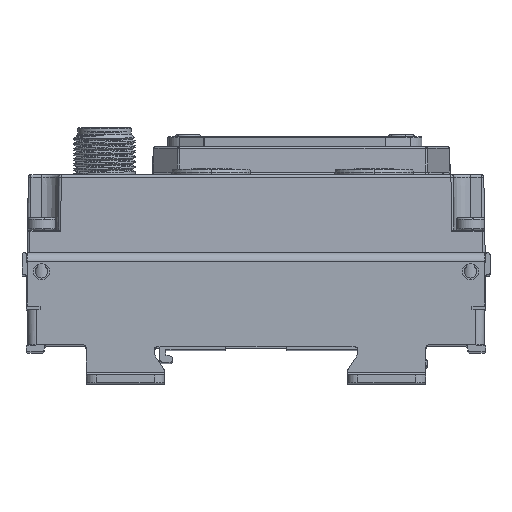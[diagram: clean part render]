
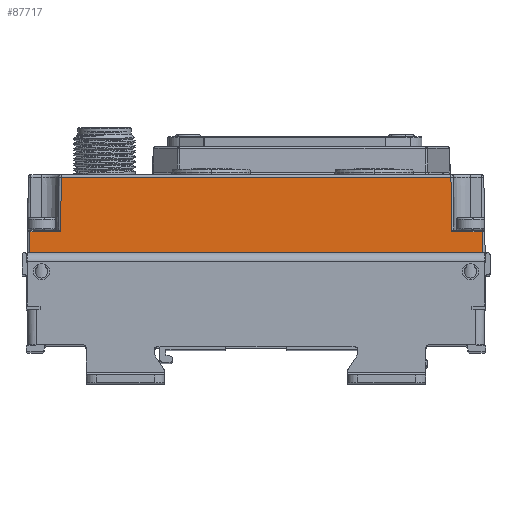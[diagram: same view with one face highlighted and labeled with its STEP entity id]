
A CAD part, top view. The second image highlights one B-rep face of the part: STEP entity #87717.
In plain terms, the highlighted planar face has unit normal (0, 0.018, 1).
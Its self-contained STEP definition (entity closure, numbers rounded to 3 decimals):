
#2068 = VERTEX_POINT ( 'NONE', #58971 ) ;
#2220 = CARTESIAN_POINT ( 'NONE',  ( 46.569, 29.705, 55.145 ) ) ;
#4025 = ORIENTED_EDGE ( 'NONE', *, *, #93430, .F. ) ;
#5047 = VERTEX_POINT ( 'NONE', #129058 ) ;
#5664 = VECTOR ( 'NONE', #32469, 1000. ) ;
#8763 = DIRECTION ( 'NONE',  ( 0.017, 1., -0.017 ) ) ;
#10930 = DIRECTION ( 'NONE',  ( 0., -0.017, -1. ) ) ;
#14651 = CARTESIAN_POINT ( 'NONE',  ( 38.326, 40.409, 54.958 ) ) ;
#14798 = EDGE_CURVE ( 'NONE', #46789, #96457, #136693, .T. ) ;
#15865 = EDGE_CURVE ( 'NONE', #154431, #51217, #16704, .T. ) ;
#16436 = EDGE_CURVE ( 'NONE', #39145, #2068, #132225, .T. ) ;
#16704 = LINE ( 'NONE', #138647, #42500 ) ;
#17189 = CARTESIAN_POINT ( 'NONE',  ( 46.569, 29.705, 55.145 ) ) ;
#19454 = CARTESIAN_POINT ( 'NONE',  ( 43.44, 23.7, 55.25 ) ) ;
#21424 = DIRECTION ( 'NONE',  ( 0.017, -1., 0.017 ) ) ;
#21642 = CARTESIAN_POINT ( 'NONE',  ( 40.9, 23.7, 55.25 ) ) ;
#23215 = ORIENTED_EDGE ( 'NONE', *, *, #43086, .F. ) ;
#25111 = VECTOR ( 'NONE', #32336, 1000. ) ;
#25290 = CARTESIAN_POINT ( 'NONE',  ( 46.569, 12.7, 55.442 ) ) ;
#25950 = CARTESIAN_POINT ( 'NONE',  ( -43.44, 23.7, 55.25 ) ) ;
#29045 = VECTOR ( 'NONE', #33830, 1000. ) ;
#32336 = DIRECTION ( 'NONE',  ( -1., 0., 0. ) ) ;
#32469 = DIRECTION ( 'NONE',  ( -1., 0., 0. ) ) ;
#33830 = DIRECTION ( 'NONE',  ( -1., 0., 0. ) ) ;
#39145 = VERTEX_POINT ( 'NONE', #25950 ) ;
#40425 = VECTOR ( 'NONE', #127438, 1000. ) ;
#40945 = ORIENTED_EDGE ( 'NONE', *, *, #158249, .F. ) ;
#42500 = VECTOR ( 'NONE', #56530, 1000. ) ;
#43086 = EDGE_CURVE ( 'NONE', #81253, #44613, #174907, .T. ) ;
#44613 = VERTEX_POINT ( 'NONE', #19454 ) ;
#46789 = VERTEX_POINT ( 'NONE', #160755 ) ;
#47830 = EDGE_CURVE ( 'NONE', #2068, #147443, #126611, .T. ) ;
#48090 = LINE ( 'NONE', #154686, #56665 ) ;
#49213 = EDGE_CURVE ( 'NONE', #140018, #5047, #121962, .T. ) ;
#51217 = VERTEX_POINT ( 'NONE', #91739 ) ;
#56530 = DIRECTION ( 'NONE',  ( -1., 0., 0. ) ) ;
#56665 = VECTOR ( 'NONE', #155268, 1000. ) ;
#58971 = CARTESIAN_POINT ( 'NONE',  ( -44.541, 23.7, 55.25 ) ) ;
#61694 = CARTESIAN_POINT ( 'NONE',  ( -44.436, 29.705, 55.145 ) ) ;
#64125 = CARTESIAN_POINT ( 'NONE',  ( -38.386, 29.705, 55.145 ) ) ;
#69522 = CARTESIAN_POINT ( 'NONE',  ( 46.569, 23.7, 55.25 ) ) ;
#69898 = CARTESIAN_POINT ( 'NONE',  ( 46.569, 23.7, 55.25 ) ) ;
#70578 = EDGE_CURVE ( 'NONE', #99108, #140018, #105739, .T. ) ;
#71499 = VECTOR ( 'NONE', #139714, 1000. ) ;
#74364 = ORIENTED_EDGE ( 'NONE', *, *, #16436, .F. ) ;
#75495 = CARTESIAN_POINT ( 'NONE',  ( 44.575, 23.7, 55.25 ) ) ;
#76423 = ORIENTED_EDGE ( 'NONE', *, *, #78155, .F. ) ;
#78155 = EDGE_CURVE ( 'NONE', #44613, #154431, #125806, .T. ) ;
#81253 = VERTEX_POINT ( 'NONE', #75495 ) ;
#81299 = DIRECTION ( 'NONE',  ( -1., 0., 0. ) ) ;
#81382 = VECTOR ( 'NONE', #21424, 1000. ) ;
#83259 = DIRECTION ( 'NONE',  ( 0.009, 1., -0.017 ) ) ;
#87717 = ADVANCED_FACE ( 'NONE', ( #165569 ), #134364, .F. ) ;
#89545 = CARTESIAN_POINT ( 'NONE',  ( 46.569, 23.7, 55.25 ) ) ;
#90882 = CARTESIAN_POINT ( 'NONE',  ( 44.47, 29.705, 55.145 ) ) ;
#91739 = CARTESIAN_POINT ( 'NONE',  ( -40.9, 23.7, 55.25 ) ) ;
#93430 = EDGE_CURVE ( 'NONE', #96457, #99108, #48090, .T. ) ;
#95711 = VECTOR ( 'NONE', #142913, 1000. ) ;
#95845 = CARTESIAN_POINT ( 'NONE',  ( 38.42, 29.705, 55.145 ) ) ;
#96457 = VERTEX_POINT ( 'NONE', #113556 ) ;
#98894 = ORIENTED_EDGE ( 'NONE', *, *, #15865, .F. ) ;
#99108 = VERTEX_POINT ( 'NONE', #14651 ) ;
#99825 = EDGE_LOOP ( 'NONE', ( #23215, #113476, #176220, #166411, #4025, #130658, #104628, #102704, #74364, #40945, #98894, #76423 ) ) ;
#102704 = ORIENTED_EDGE ( 'NONE', *, *, #47830, .F. ) ;
#104628 = ORIENTED_EDGE ( 'NONE', *, *, #165657, .F. ) ;
#105208 = CARTESIAN_POINT ( 'NONE',  ( -44.733, 12.7, 55.442 ) ) ;
#105739 = LINE ( 'NONE', #113383, #71499 ) ;
#106357 = LINE ( 'NONE', #2220, #95711 ) ;
#109321 = LINE ( 'NONE', #90882, #81382 ) ;
#113383 = CARTESIAN_POINT ( 'NONE',  ( 38.326, 40.409, 54.958 ) ) ;
#113476 = ORIENTED_EDGE ( 'NONE', *, *, #152917, .F. ) ;
#113556 = CARTESIAN_POINT ( 'NONE',  ( -38.292, 40.409, 54.958 ) ) ;
#121962 = LINE ( 'NONE', #17189, #40425 ) ;
#125806 = LINE ( 'NONE', #69898, #151618 ) ;
#126611 = LINE ( 'NONE', #105208, #139453 ) ;
#127438 = DIRECTION ( 'NONE',  ( 1., 0., 0. ) ) ;
#129058 = CARTESIAN_POINT ( 'NONE',  ( 44.47, 29.705, 55.145 ) ) ;
#130658 = ORIENTED_EDGE ( 'NONE', *, *, #14798, .F. ) ;
#132225 = LINE ( 'NONE', #69522, #25111 ) ;
#133786 = AXIS2_PLACEMENT_3D ( 'NONE', #25290, #10930, #159632 ) ;
#134364 = PLANE ( 'NONE',  #133786 ) ;
#136693 = LINE ( 'NONE', #64125, #168956 ) ;
#138647 = CARTESIAN_POINT ( 'NONE',  ( 46.569, 23.7, 55.25 ) ) ;
#139453 = VECTOR ( 'NONE', #8763, 1000. ) ;
#139714 = DIRECTION ( 'NONE',  ( 0.009, -1., 0.017 ) ) ;
#140018 = VERTEX_POINT ( 'NONE', #95845 ) ;
#142081 = CARTESIAN_POINT ( 'NONE',  ( 46.569, 23.7, 55.25 ) ) ;
#142913 = DIRECTION ( 'NONE',  ( 1., 0., 0. ) ) ;
#147443 = VERTEX_POINT ( 'NONE', #61694 ) ;
#151618 = VECTOR ( 'NONE', #81299, 1000. ) ;
#152917 = EDGE_CURVE ( 'NONE', #5047, #81253, #109321, .T. ) ;
#154431 = VERTEX_POINT ( 'NONE', #21642 ) ;
#154686 = CARTESIAN_POINT ( 'NONE',  ( 46.569, 40.409, 54.958 ) ) ;
#155268 = DIRECTION ( 'NONE',  ( 1., 0., 0. ) ) ;
#158249 = EDGE_CURVE ( 'NONE', #51217, #39145, #172881, .T. ) ;
#159632 = DIRECTION ( 'NONE',  ( 0., 1., -0.017 ) ) ;
#160755 = CARTESIAN_POINT ( 'NONE',  ( -38.386, 29.705, 55.145 ) ) ;
#165569 = FACE_OUTER_BOUND ( 'NONE', #99825, .T. ) ;
#165657 = EDGE_CURVE ( 'NONE', #147443, #46789, #106357, .T. ) ;
#166411 = ORIENTED_EDGE ( 'NONE', *, *, #70578, .F. ) ;
#168956 = VECTOR ( 'NONE', #83259, 1000. ) ;
#172881 = LINE ( 'NONE', #142081, #5664 ) ;
#174907 = LINE ( 'NONE', #89545, #29045 ) ;
#176220 = ORIENTED_EDGE ( 'NONE', *, *, #49213, .F. ) ;
